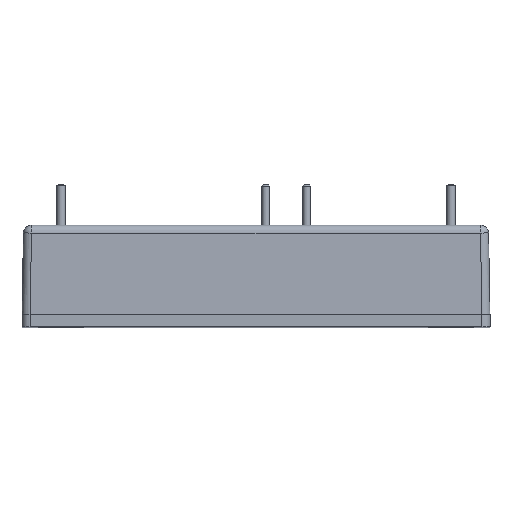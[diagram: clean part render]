
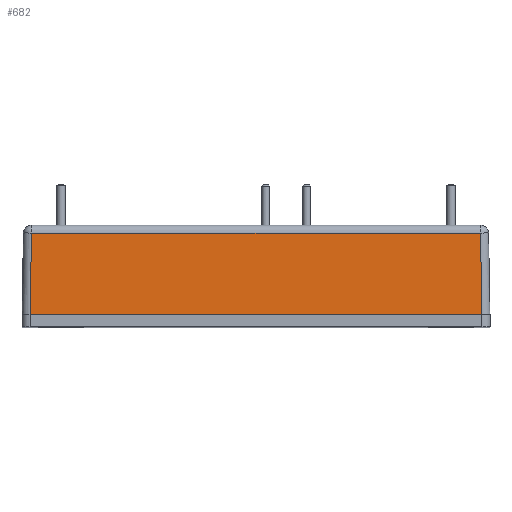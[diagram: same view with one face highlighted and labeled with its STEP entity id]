
A CAD part, top view. The second image highlights one B-rep face of the part: STEP entity #682.
In plain terms, the highlighted planar face has unit normal (0, 0.018, 1) as drawn and (0, 0.017, -1) by its records, which use the part's own axes.
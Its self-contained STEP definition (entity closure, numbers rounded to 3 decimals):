
#143 = DIRECTION ( 'NONE',  ( 0.017, -1., -0.017 ) ) ;
#180 = ORIENTED_EDGE ( 'NONE', *, *, #16866, .T. ) ;
#191 = CARTESIAN_POINT ( 'NONE',  ( 28.756, 10.117, -30.323 ) ) ;
#361 = CARTESIAN_POINT ( 'NONE',  ( -27.774, 10.117, -30.323 ) ) ;
#682 = ADVANCED_FACE ( 'NONE', ( #9177 ), #14682, .T. ) ;
#1276 = DIRECTION ( 'NONE',  ( 0.017, 1., 0.017 ) ) ;
#1415 = LINE ( 'NONE', #7902, #15748 ) ;
#2138 = EDGE_CURVE ( 'NONE', #9587, #7031, #15002, .T. ) ;
#2375 = EDGE_LOOP ( 'NONE', ( #8198, #180, #5098, #6556 ) ) ;
#2806 = CARTESIAN_POINT ( 'NONE',  ( 27.774, 10.117, -30.323 ) ) ;
#3588 = CARTESIAN_POINT ( 'NONE',  ( -27.95, -0.017, -30.5 ) ) ;
#4109 = DIRECTION ( 'NONE',  ( 1., 0., 0. ) ) ;
#4758 = EDGE_CURVE ( 'NONE', #5827, #9587, #1415, .T. ) ;
#5098 = ORIENTED_EDGE ( 'NONE', *, *, #15946, .T. ) ;
#5276 = DIRECTION ( 'NONE',  ( 0., 0.017, -1. ) ) ;
#5766 = VECTOR ( 'NONE', #16205, 1000. ) ;
#5827 = VERTEX_POINT ( 'NONE', #2806 ) ;
#6556 = ORIENTED_EDGE ( 'NONE', *, *, #4758, .T. ) ;
#7031 = VERTEX_POINT ( 'NONE', #11392 ) ;
#7122 = VERTEX_POINT ( 'NONE', #361 ) ;
#7902 = CARTESIAN_POINT ( 'NONE',  ( 27.933, 0.993, -30.483 ) ) ;
#8198 = ORIENTED_EDGE ( 'NONE', *, *, #2138, .T. ) ;
#9177 = FACE_OUTER_BOUND ( 'NONE', #2375, .T. ) ;
#9587 = VERTEX_POINT ( 'NONE', #15991 ) ;
#10505 = VECTOR ( 'NONE', #1276, 1000. ) ;
#10556 = CARTESIAN_POINT ( 'NONE',  ( -28.95, 0., -30.5 ) ) ;
#11392 = CARTESIAN_POINT ( 'NONE',  ( -27.95, 0., -30.5 ) ) ;
#11817 = LINE ( 'NONE', #191, #13932 ) ;
#12933 = AXIS2_PLACEMENT_3D ( 'NONE', #10556, #5276, #14770 ) ;
#13017 = LINE ( 'NONE', #3588, #10505 ) ;
#13932 = VECTOR ( 'NONE', #4109, 1000. ) ;
#14682 = PLANE ( 'NONE',  #12933 ) ;
#14770 = DIRECTION ( 'NONE',  ( 0., 1., 0.017 ) ) ;
#14927 = CARTESIAN_POINT ( 'NONE',  ( -28.95, 0., -30.5 ) ) ;
#15002 = LINE ( 'NONE', #14927, #5766 ) ;
#15748 = VECTOR ( 'NONE', #143, 1000. ) ;
#15946 = EDGE_CURVE ( 'NONE', #7122, #5827, #11817, .T. ) ;
#15991 = CARTESIAN_POINT ( 'NONE',  ( 27.95, 0., -30.5 ) ) ;
#16205 = DIRECTION ( 'NONE',  ( -1., 0., 0. ) ) ;
#16866 = EDGE_CURVE ( 'NONE', #7031, #7122, #13017, .T. ) ;
